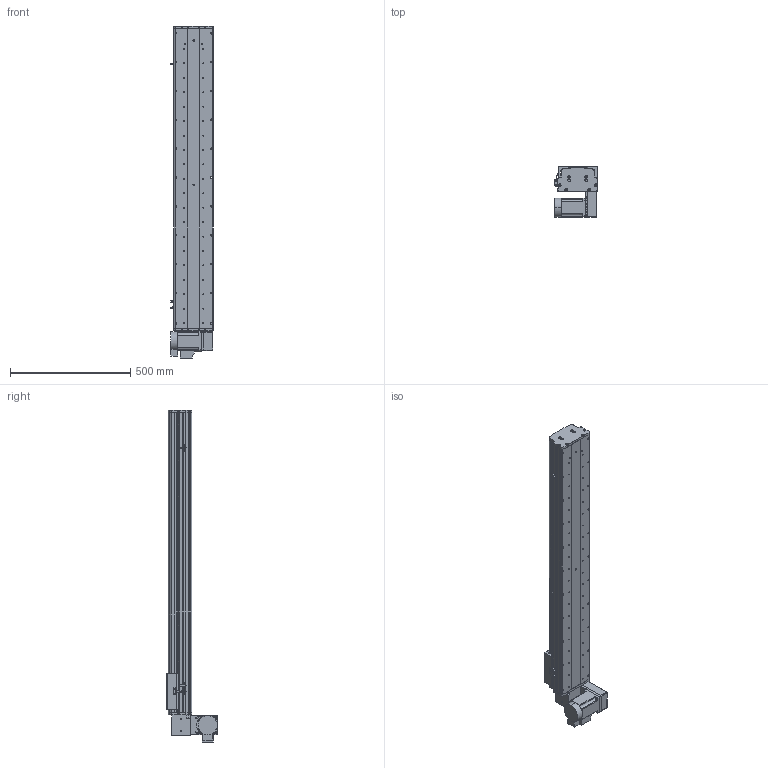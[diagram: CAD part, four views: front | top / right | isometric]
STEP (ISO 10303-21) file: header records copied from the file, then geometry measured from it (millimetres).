
FILE_DESCRIPTION (( 'STEP AP214' ), '1' );
FILE_NAME ('KSD165B-S1000-MRD-CM.STEP', '2017-10-16T09:42:12', ( '微软用户' ), ( '微软中国' ), 'SwSTEP 2.0', 'SolidWorks 2014', '' );
FILE_SCHEMA (( 'AUTOMOTIVE_DESIGN' ));
Length unit declared in the file: millimetre
Products named in the file (17): 130宽模组马达安装板连板上下折丝杆同步带; 130宽模组保护罩上下左右折-同步带; HTPA26S5M250-A-H8 750W萇儂蚚; HTPA26S5M250-A-H8 400W萇儂蚚 ; KSD165模组-同步带防尘盖1-1000行程; KSD165模组同步带底板-1000行程; 拸秶雄ん750W侜督萇儂; 165宽马达安装板同步带右; U倰嫖萇假蚾璃; U倰嫖萇EEㄜSX672; 覜茼え68遵圉猾敕; KSD165模组-同步带-防撞垫2; KSD165模组同步带-防撞垫1; KSD165耀郪-ヶ傷啣1-肮祭湍; KSD165模组-后端板1-同步带; KSD165模组-同步带滑动座-最新版; KSD165B-S1000-MRD-CM
Assembly tree (20 placements, depth 2):
  KSD165B-S1000-MRD-CM
    KSD165模组-同步带滑动座-最新版
    KSD165模组-后端板1-同步带
    KSD165耀郪-ヶ傷啣1-肮祭湍
    KSD165模组同步带-防撞垫1
    KSD165模组-同步带-防撞垫2
    覜茼え68遵圉猾敕
    U倰嫖萇EEㄜSX672  x3
    U倰嫖萇假蚾璃  x3
    165宽马达安装板同步带右
    拸秶雄ん750W侜督萇儂
    KSD165模组同步带底板-1000行程
    KSD165模组-同步带防尘盖1-1000行程
    HTPA26S5M250-A-H8 400W萇儂蚚 
    HTPA26S5M250-A-H8 750W萇儂蚚
    130宽模组保护罩上下左右折-同步带
    130宽模组马达安装板连板上下折丝杆同步带
Bounding box: 178.7 x 210 x 1380.5 mm (x, y, z)
Volume: 7916382.2 mm3; surface area: 1840841.4 mm2
Topology: 21 solids, 21 shells, 1975 faces, 5580 edges, 3644 vertices
Faces by surface type: cylinder 1275, plane 588, cone 112
Entity records: 64292 total; most frequent: CARTESIAN_POINT 13180, DIRECTION 10552, ORIENTED_EDGE 9820, EDGE_CURVE 4910, AXIS2_PLACEMENT_3D 4142, VERTEX_POINT 3236, CIRCLE 2364, VECTOR 2268
